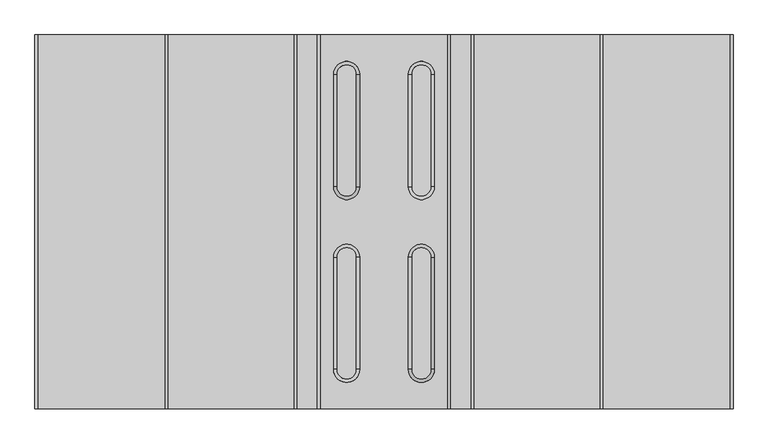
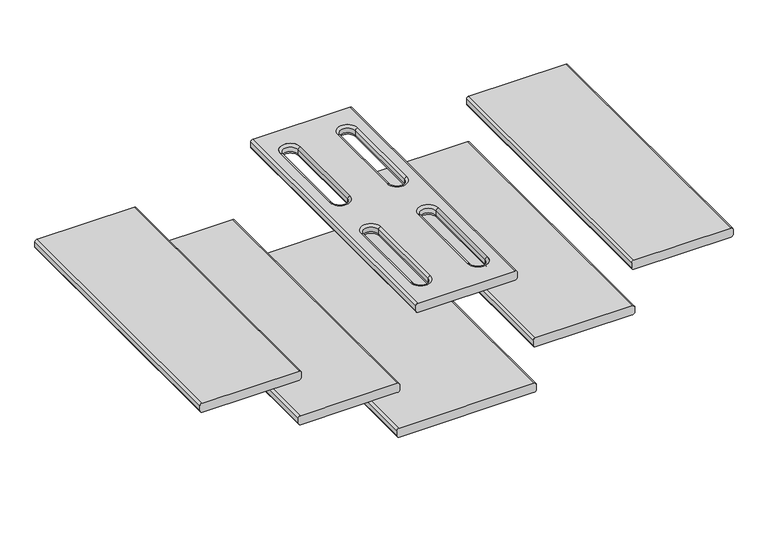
"""IFC4 building model written with IfcOpenShell, lengths in millimetres: furniture geometry, SSL-Childcraft_Outdoor-Rocking_Boat : 2163503."""

from ifc_helpers import new_model, si_unit, point, frame, origin, place, context, project, spatial, polyline, circle_curve, ellipse_curve, trimmed, source, transform, mapped, element, save
from ifc_brep_helpers import plane_surface, cylinder_surface, revolved_surface, advanced_brep


def furniture_abc39f0b(model_context):
    return source(origin(), model_context, "Body", "AdvancedBrep", [
        advanced_brep(
        [(42.06875, -225.425, 274.6375), (72.23125, -225.425, 274.6375), (76.99375, -225.425, 269.875), (37.30625, -225.425, 269.875), (42.06875, -225.425, 284.1625), (72.23125, -225.425, 284.1625), (37.30625, -225.425, 288.925), (76.99375, -225.425, 288.925), (37.30625, -53.975, 269.875), (42.06875, -53.975, 274.6375), (42.06875, -53.975, 284.1625), (37.30625, -53.975, 288.925), (76.99375, -53.975, 269.875), (72.23125, -53.975, 274.6375), (72.23125, -53.975, 284.1625), (76.99375, -53.975, 288.925), (-96.8375, 285.75, 288.925), (-96.8375, -285.75, 288.925), (96.8375, -285.75, 288.925), (96.8375, 285.75, 288.925), (37.30625, 225.425, 288.925), (76.99375, 225.425, 288.925), (76.99375, 53.975, 288.925), (37.30625, 53.975, 288.925), (-37.30625, -225.425, 288.925), (-76.99375, -225.425, 288.925), (-76.99375, -53.975, 288.925), (-37.30625, -53.975, 288.925), (-76.99375, 225.425, 288.925), (-37.30625, 225.425, 288.925), (-37.30625, 53.975, 288.925), (-76.99375, 53.975, 288.925), (96.8375, 285.75, 269.875), (96.8375, -285.75, 269.875), (-96.8375, -285.75, 269.875), (-96.8375, 285.75, 269.875), (76.99375, 225.425, 269.875), (37.30625, 225.425, 269.875), (37.30625, 53.975, 269.875), (76.99375, 53.975, 269.875), (-76.99375, -225.425, 269.875), (-37.30625, -225.425, 269.875), (-37.30625, -53.975, 269.875), (-76.99375, -53.975, 269.875), (-37.30625, 225.425, 269.875), (-76.99375, 225.425, 269.875), (-76.99375, 53.975, 269.875), (-37.30625, 53.975, 269.875), (72.23125, 225.425, 274.6375), (42.06875, 225.425, 274.6375), (72.23125, 225.425, 284.1625), (42.06875, 225.425, 284.1625), (42.06875, 53.975, 274.6375), (42.06875, 53.975, 284.1625), (72.23125, 53.975, 274.6375), (72.23125, 53.975, 284.1625), (-101.6, -285.75, 284.1625), (-101.6, -285.75, 274.6375), (101.6, -285.75, 274.6375), (101.6, -285.75, 284.1625), (-101.6, 285.75, 274.6375), (-101.6, 285.75, 284.1625), (101.6, 285.75, 284.1625), (101.6, 285.75, 274.6375), (-72.23125, -225.425, 274.6375), (-42.06875, -225.425, 274.6375), (-72.23125, -225.425, 284.1625), (-42.06875, -225.425, 284.1625), (-42.06875, -53.975, 274.6375), (-42.06875, -53.975, 284.1625), (-72.23125, -53.975, 274.6375), (-72.23125, -53.975, 284.1625), (-42.06875, 225.425, 274.6375), (-72.23125, 225.425, 274.6375), (-42.06875, 225.425, 284.1625), (-72.23125, 225.425, 284.1625), (-42.06875, 53.975, 274.6375), (-42.06875, 53.975, 284.1625), (-72.23125, 53.975, 274.6375), (-72.23125, 53.975, 284.1625)],
        [
            (0, 1, circle_curve(frame((57.15, -225.425, 274.6375), z_axis=(0.0, 0.0, 1.0), x_axis=(1.0, 0.0, 0.0)), 15.08125)),
            (1, 2, circle_curve(frame((76.99375, -225.425, 274.6375), z_axis=(0.0, -1.0, 0.0), x_axis=(1.0, 0.0, 0.0)), 4.7625)),
            (2, 3, circle_curve(frame((57.15, -225.425, 269.875), z_axis=(0.0, 0.0, -1.0), x_axis=(1.0, 0.0, 0.0)), 19.84375)),
            (3, 0, circle_curve(frame((37.30625, -225.425, 274.6375), z_axis=(0.0, -1.0, 0.0), x_axis=(-1.0, 0.0, 0.0)), 4.7625)),
            (0, 4),
            (4, 5, circle_curve(frame((57.15, -225.425, 284.1625), z_axis=(0.0, 0.0, 1.0), x_axis=(1.0, 0.0, 0.0)), 15.08125)),
            (5, 1),
            (4, 6, circle_curve(frame((37.30625, -225.425, 284.1625), z_axis=(0.0, -1.0, 0.0), x_axis=(-1.0, 0.0, 0.0)), 4.7625)),
            (6, 7, circle_curve(frame((57.15, -225.425, 288.925), z_axis=(0.0, 0.0, 1.0), x_axis=(1.0, 0.0, 0.0)), 19.84375)),
            (7, 5, circle_curve(frame((76.99375, -225.425, 284.1625), z_axis=(0.0, -1.0, 0.0), x_axis=(1.0, 0.0, 0.0)), 4.7625)),
            (3, 8),
            (8, 9, circle_curve(frame((37.30625, -53.975, 274.6375), z_axis=(0.0, -1.0, 0.0), x_axis=(-1.0, 0.0, 0.0)), 4.7625)),
            (9, 0),
            (9, 10),
            (10, 4),
            (10, 11, circle_curve(frame((37.30625, -53.975, 284.1625), z_axis=(0.0, -1.0, 0.0), x_axis=(-1.0, 0.0, 0.0)), 4.7625)),
            (11, 6),
            (8, 12, circle_curve(frame((57.15, -53.975, 269.875), z_axis=(0.0, 0.0, -1.0), x_axis=(-1.0, 0.0, 0.0)), 19.84375)),
            (12, 13, circle_curve(frame((76.99375, -53.975, 274.6375), z_axis=(0.0, 1.0, 0.0), x_axis=(1.0, 0.0, 0.0)), 4.7625)),
            (13, 9, circle_curve(frame((57.15, -53.975, 274.6375), z_axis=(0.0, 0.0, 1.0), x_axis=(-1.0, 0.0, 0.0)), 15.08125)),
            (13, 14),
            (14, 10, circle_curve(frame((57.15, -53.975, 284.1625), z_axis=(0.0, 0.0, 1.0), x_axis=(-1.0, 0.0, 0.0)), 15.08125)),
            (14, 15, circle_curve(frame((76.99375, -53.975, 284.1625), z_axis=(0.0, 1.0, 0.0), x_axis=(1.0, 0.0, 0.0)), 4.7625)),
            (15, 11, circle_curve(frame((57.15, -53.975, 288.925), z_axis=(0.0, 0.0, 1.0), x_axis=(-1.0, 0.0, 0.0)), 19.84375)),
            (16, 17),
            (17, 18),
            (18, 19),
            (19, 16),
            (15, 7),
            (20, 21, circle_curve(frame((57.15, 225.425, 288.925), z_axis=(0.0, 0.0, -1.0), x_axis=(1.0, 0.0, 0.0)), 19.84375)),
            (21, 22),
            (22, 23, circle_curve(frame((57.15, 53.975, 288.925), z_axis=(0.0, 0.0, -1.0), x_axis=(-1.0, 0.0, 0.0)), 19.84375)),
            (23, 20),
            (24, 25, circle_curve(frame((-57.15, -225.425, 288.925), z_axis=(0.0, 0.0, -1.0), x_axis=(-1.0, 0.0, 0.0)), 19.84375)),
            (25, 26),
            (26, 27, circle_curve(frame((-57.15, -53.975, 288.925), z_axis=(0.0, 0.0, -1.0), x_axis=(1.0, 0.0, 0.0)), 19.84375)),
            (27, 24),
            (28, 29, circle_curve(frame((-57.15, 225.425, 288.925), z_axis=(0.0, 0.0, -1.0), x_axis=(-1.0, 0.0, 0.0)), 19.84375)),
            (29, 30),
            (30, 31, circle_curve(frame((-57.15, 53.975, 288.925), z_axis=(0.0, 0.0, -1.0), x_axis=(1.0, 0.0, 0.0)), 19.84375)),
            (31, 28),
            (32, 33),
            (33, 34),
            (34, 35),
            (35, 32),
            (2, 12),
            (36, 37, circle_curve(frame((57.15, 225.425, 269.875), z_axis=(0.0, 0.0, 1.0), x_axis=(1.0, 0.0, 0.0)), 19.84375)),
            (37, 38),
            (38, 39, circle_curve(frame((57.15, 53.975, 269.875), z_axis=(0.0, 0.0, 1.0), x_axis=(-1.0, 0.0, 0.0)), 19.84375)),
            (39, 36),
            (40, 41, circle_curve(frame((-57.15, -225.425, 269.875), z_axis=(0.0, 0.0, 1.0), x_axis=(-1.0, 0.0, 0.0)), 19.84375)),
            (41, 42),
            (42, 43, circle_curve(frame((-57.15, -53.975, 269.875), z_axis=(0.0, 0.0, 1.0), x_axis=(1.0, 0.0, 0.0)), 19.84375)),
            (43, 40),
            (44, 45, circle_curve(frame((-57.15, 225.425, 269.875), z_axis=(0.0, 0.0, 1.0), x_axis=(-1.0, 0.0, 0.0)), 19.84375)),
            (45, 46),
            (46, 47, circle_curve(frame((-57.15, 53.975, 269.875), z_axis=(0.0, 0.0, 1.0), x_axis=(1.0, 0.0, 0.0)), 19.84375)),
            (47, 44),
            (1, 13),
            (5, 14),
            (36, 48, circle_curve(frame((76.99375, 225.425, 274.6375), z_axis=(0.0, 1.0, 0.0), x_axis=(-1.0, 0.0, 0.0)), 4.7625)),
            (48, 49, circle_curve(frame((57.15, 225.425, 274.6375), z_axis=(0.0, 0.0, 1.0), x_axis=(1.0, 0.0, 0.0)), 15.08125)),
            (49, 37, circle_curve(frame((37.30625, 225.425, 274.6375), z_axis=(0.0, 1.0, 0.0), x_axis=(1.0, 0.0, 0.0)), 4.7625)),
            (48, 50),
            (50, 51, circle_curve(frame((57.15, 225.425, 284.1625), z_axis=(0.0, 0.0, 1.0), x_axis=(1.0, 0.0, 0.0)), 15.08125)),
            (51, 49),
            (50, 21, circle_curve(frame((76.99375, 225.425, 284.1625), z_axis=(0.0, 1.0, 0.0), x_axis=(-1.0, 0.0, 0.0)), 4.7625)),
            (20, 51, circle_curve(frame((37.30625, 225.425, 284.1625), z_axis=(0.0, 1.0, 0.0), x_axis=(1.0, 0.0, 0.0)), 4.7625)),
            (49, 52),
            (52, 38, circle_curve(frame((37.30625, 53.975, 274.6375), z_axis=(0.0, 1.0, 0.0), x_axis=(1.0, 0.0, 0.0)), 4.7625)),
            (51, 53),
            (53, 52),
            (23, 53, circle_curve(frame((37.30625, 53.975, 284.1625), z_axis=(0.0, 1.0, 0.0), x_axis=(1.0, 0.0, 0.0)), 4.7625)),
            (52, 54, circle_curve(frame((57.15, 53.975, 274.6375), z_axis=(0.0, 0.0, 1.0), x_axis=(-1.0, 0.0, 0.0)), 15.08125)),
            (54, 39, circle_curve(frame((76.99375, 53.975, 274.6375), z_axis=(0.0, -1.0, 0.0), x_axis=(-1.0, 0.0, 0.0)), 4.7625)),
            (53, 55, circle_curve(frame((57.15, 53.975, 284.1625), z_axis=(0.0, 0.0, 1.0), x_axis=(-1.0, 0.0, 0.0)), 15.08125)),
            (55, 54),
            (22, 55, circle_curve(frame((76.99375, 53.975, 284.1625), z_axis=(0.0, -1.0, 0.0), x_axis=(-1.0, 0.0, 0.0)), 4.7625)),
            (54, 48),
            (55, 50),
            (17, 56, circle_curve(frame((-96.8375, -285.75, 284.1625), z_axis=(0.0, -1.0, 0.0), x_axis=(1.0, 0.0, 0.0)), 4.7625)),
            (56, 57),
            (57, 34, circle_curve(frame((-96.8375, -285.75, 274.6375), z_axis=(0.0, -1.0, 0.0), x_axis=(1.0, 0.0, 0.0)), 4.7625)),
            (33, 58, circle_curve(frame((96.8375, -285.75, 274.6375), z_axis=(0.0, -1.0, 0.0), x_axis=(1.0, 0.0, 0.0)), 4.7625)),
            (58, 59),
            (59, 18, circle_curve(frame((96.8375, -285.75, 284.1625), z_axis=(0.0, -1.0, 0.0), x_axis=(1.0, 0.0, 0.0)), 4.7625)),
            (35, 60, circle_curve(frame((-96.8375, 285.75, 274.6375), z_axis=(0.0, 1.0, 0.0), x_axis=(1.0, 0.0, 0.0)), 4.7625)),
            (60, 61),
            (61, 16, circle_curve(frame((-96.8375, 285.75, 284.1625), z_axis=(0.0, 1.0, 0.0), x_axis=(1.0, 0.0, 0.0)), 4.7625)),
            (19, 62, circle_curve(frame((96.8375, 285.75, 284.1625), z_axis=(0.0, 1.0, 0.0), x_axis=(1.0, 0.0, 0.0)), 4.7625)),
            (62, 63),
            (63, 32, circle_curve(frame((96.8375, 285.75, 274.6375), z_axis=(0.0, 1.0, 0.0), x_axis=(1.0, 0.0, 0.0)), 4.7625)),
            (56, 61),
            (60, 57),
            (58, 63),
            (62, 59),
            (40, 64, circle_curve(frame((-76.99375, -225.425, 274.6375), z_axis=(0.0, -1.0, 0.0), x_axis=(1.0, 0.0, 0.0)), 4.7625)),
            (64, 65, circle_curve(frame((-57.15, -225.425, 274.6375), z_axis=(0.0, 0.0, 1.0), x_axis=(-1.0, 0.0, 0.0)), 15.08125)),
            (65, 41, circle_curve(frame((-37.30625, -225.425, 274.6375), z_axis=(0.0, -1.0, 0.0), x_axis=(-1.0, 0.0, 0.0)), 4.7625)),
            (64, 66),
            (66, 67, circle_curve(frame((-57.15, -225.425, 284.1625), z_axis=(0.0, 0.0, 1.0), x_axis=(-1.0, 0.0, 0.0)), 15.08125)),
            (67, 65),
            (66, 25, circle_curve(frame((-76.99375, -225.425, 284.1625), z_axis=(0.0, -1.0, 0.0), x_axis=(1.0, 0.0, 0.0)), 4.7625)),
            (24, 67, circle_curve(frame((-37.30625, -225.425, 284.1625), z_axis=(0.0, -1.0, 0.0), x_axis=(-1.0, 0.0, 0.0)), 4.7625)),
            (65, 68),
            (68, 42, circle_curve(frame((-37.30625, -53.975, 274.6375), z_axis=(0.0, -1.0, 0.0), x_axis=(-1.0, 0.0, 0.0)), 4.7625)),
            (67, 69),
            (69, 68),
            (27, 69, circle_curve(frame((-37.30625, -53.975, 284.1625), z_axis=(0.0, -1.0, 0.0), x_axis=(-1.0, 0.0, 0.0)), 4.7625)),
            (68, 70, circle_curve(frame((-57.15, -53.975, 274.6375), z_axis=(0.0, 0.0, 1.0), x_axis=(1.0, 0.0, 0.0)), 15.08125)),
            (70, 43, circle_curve(frame((-76.99375, -53.975, 274.6375), z_axis=(0.0, 1.0, 0.0), x_axis=(1.0, 0.0, 0.0)), 4.7625)),
            (69, 71, circle_curve(frame((-57.15, -53.975, 284.1625), z_axis=(0.0, 0.0, 1.0), x_axis=(1.0, 0.0, 0.0)), 15.08125)),
            (71, 70),
            (26, 71, circle_curve(frame((-76.99375, -53.975, 284.1625), z_axis=(0.0, 1.0, 0.0), x_axis=(1.0, 0.0, 0.0)), 4.7625)),
            (70, 64),
            (71, 66),
            (72, 73, circle_curve(frame((-57.15, 225.425, 274.6375), z_axis=(0.0, 0.0, 1.0), x_axis=(-1.0, 0.0, 0.0)), 15.08125)),
            (73, 45, circle_curve(frame((-76.99375, 225.425, 274.6375), z_axis=(0.0, 1.0, 0.0), x_axis=(-1.0, 0.0, 0.0)), 4.7625)),
            (44, 72, circle_curve(frame((-37.30625, 225.425, 274.6375), z_axis=(0.0, 1.0, 0.0), x_axis=(1.0, 0.0, 0.0)), 4.7625)),
            (72, 74),
            (74, 75, circle_curve(frame((-57.15, 225.425, 284.1625), z_axis=(0.0, 0.0, 1.0), x_axis=(-1.0, 0.0, 0.0)), 15.08125)),
            (75, 73),
            (74, 29, circle_curve(frame((-37.30625, 225.425, 284.1625), z_axis=(0.0, 1.0, 0.0), x_axis=(1.0, 0.0, 0.0)), 4.7625)),
            (28, 75, circle_curve(frame((-76.99375, 225.425, 284.1625), z_axis=(0.0, 1.0, 0.0), x_axis=(-1.0, 0.0, 0.0)), 4.7625)),
            (47, 76, circle_curve(frame((-37.30625, 53.975, 274.6375), z_axis=(0.0, 1.0, 0.0), x_axis=(1.0, 0.0, 0.0)), 4.7625)),
            (76, 72),
            (76, 77),
            (77, 74),
            (77, 30, circle_curve(frame((-37.30625, 53.975, 284.1625), z_axis=(0.0, 1.0, 0.0), x_axis=(1.0, 0.0, 0.0)), 4.7625)),
            (46, 78, circle_curve(frame((-76.99375, 53.975, 274.6375), z_axis=(0.0, -1.0, 0.0), x_axis=(-1.0, 0.0, 0.0)), 4.7625)),
            (78, 76, circle_curve(frame((-57.15, 53.975, 274.6375), z_axis=(0.0, 0.0, 1.0), x_axis=(1.0, 0.0, 0.0)), 15.08125)),
            (78, 79),
            (79, 77, circle_curve(frame((-57.15, 53.975, 284.1625), z_axis=(0.0, 0.0, 1.0), x_axis=(1.0, 0.0, 0.0)), 15.08125)),
            (79, 31, circle_curve(frame((-76.99375, 53.975, 284.1625), z_axis=(0.0, -1.0, 0.0), x_axis=(-1.0, 0.0, 0.0)), 4.7625)),
            (73, 78),
            (75, 79),
        ],
        [
            revolved_surface(trimmed(ellipse_curve(frame((76.99375, -225.425, 274.6375), z_axis=(0.0, 1.0, 0.0), x_axis=(1.0, 0.0, 0.0)), 4.7625, 4.7625), [point((76.99375, -225.425, 269.875))], [point((72.23125, -225.425, 274.6375))], True, "CARTESIAN"), (57.15, -225.425, 0.0), (0.0, 0.0, -1.0)),
            revolved_surface(polyline([(72.23125, -225.425, 274.6375), (72.23125, -225.425, 284.1625)]), (57.15, -225.425, 0.0), (0.0, 0.0, -1.0)),
            revolved_surface(trimmed(ellipse_curve(frame((76.99375, -225.425, 284.1625), z_axis=(0.0, 1.0, 0.0), x_axis=(1.0, 0.0, 0.0)), 4.7625, 4.7625), [point((72.23125, -225.425, 284.1625))], [point((76.99375, -225.425, 288.925))], True, "CARTESIAN"), (57.15, -225.425, 0.0), (0.0, 0.0, -1.0)),
            cylinder_surface(frame((37.30625, -225.425, 274.6375), z_axis=(0.0, -1.0, 0.0), x_axis=(-1.0, 0.0, 0.0)), 4.7625),
            plane_surface(frame((42.06875, -225.425, 274.6375), z_axis=(1.0, 0.0, 0.0), x_axis=(0.0, 1.0, 0.0))),
            cylinder_surface(frame((37.30625, -225.425, 284.1625), z_axis=(0.0, -1.0, 0.0), x_axis=(-1.0, 0.0, 0.0)), 4.7625),
            revolved_surface(trimmed(ellipse_curve(frame((37.30625, -53.975, 274.6375), z_axis=(0.0, -1.0, 0.0), x_axis=(-1.0, 0.0, 0.0)), 4.7625, 4.7625), [point((37.30625, -53.975, 269.875))], [point((42.06875, -53.975, 274.6375))], True, "CARTESIAN"), (57.15, -53.975, 0.0), (0.0, 0.0, -1.0)),
            revolved_surface(polyline([(42.068749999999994, -53.975, 274.6375), (42.068749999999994, -53.975, 284.1625)]), (57.15, -53.975, 0.0), (0.0, 0.0, -1.0)),
            revolved_surface(trimmed(ellipse_curve(frame((37.30625, -53.975, 284.1625), z_axis=(0.0, -1.0, 0.0), x_axis=(-1.0, 0.0, 0.0)), 4.7625, 4.7625), [point((42.06875, -53.975, 284.1625))], [point((37.30625, -53.975, 288.925))], True, "CARTESIAN"), (57.15, -53.975, 0.0), (0.0, 0.0, -1.0)),
            plane_surface(frame((76.99375, -53.975, 288.925), z_axis=(0.0, 0.0, 1.0), x_axis=(0.0, -1.0, 0.0))),
            plane_surface(frame((77.7875, -53.975, 269.875), z_axis=(0.0, 0.0, -1.0), x_axis=(0.0, -1.0, 0.0))),
            cylinder_surface(frame((76.99375, -53.975, 274.6375), z_axis=(0.0, 1.0, 0.0), x_axis=(1.0, 0.0, 0.0)), 4.7625),
            plane_surface(frame((72.23125, -53.975, 274.6375), z_axis=(-1.0, 0.0, 0.0), x_axis=(0.0, -1.0, 0.0))),
            cylinder_surface(frame((76.99375, -53.975, 284.1625), z_axis=(0.0, 1.0, 0.0), x_axis=(1.0, 0.0, 0.0)), 4.7625),
            revolved_surface(trimmed(ellipse_curve(frame((76.99375, 225.425, 274.6375), z_axis=(0.0, -1.0, 0.0), x_axis=(-1.0, 0.0, 0.0)), 4.7625, 4.7625), [point((72.23125, 225.425, 274.6375))], [point((76.99375, 225.425, 269.875))], True, "CARTESIAN"), (57.15, 225.425, 0.0), (0.0, 0.0, 1.0)),
            revolved_surface(polyline([(72.23125, 225.425, 284.1625), (72.23125, 225.425, 274.6375)]), (57.15, 225.425, 0.0), (0.0, 0.0, 1.0)),
            revolved_surface(trimmed(ellipse_curve(frame((76.99375, 225.425, 284.1625), z_axis=(0.0, -1.0, 0.0), x_axis=(-1.0, 0.0, 0.0)), 4.7625, 4.7625), [point((76.99375, 225.425, 288.925))], [point((72.23125, 225.425, 284.1625))], True, "CARTESIAN"), (57.15, 225.425, 0.0), (0.0, 0.0, 1.0)),
            cylinder_surface(frame((37.30625, 225.425, 274.6375), z_axis=(0.0, 1.0, 0.0), x_axis=(1.0, 0.0, 0.0)), 4.7625),
            plane_surface(frame((42.06875, 225.425, 284.1625), z_axis=(1.0, 0.0, 0.0), x_axis=(0.0, -1.0, 0.0))),
            cylinder_surface(frame((37.30625, 225.425, 284.1625), z_axis=(0.0, 1.0, 0.0), x_axis=(1.0, 0.0, 0.0)), 4.7625),
            revolved_surface(trimmed(ellipse_curve(frame((37.30625, 53.975, 274.6375), z_axis=(0.0, 1.0, 0.0), x_axis=(1.0, 0.0, 0.0)), 4.7625, 4.7625), [point((42.06875, 53.975, 274.6375))], [point((37.30625, 53.975, 269.875))], True, "CARTESIAN"), (57.15, 53.975, 0.0), (0.0, 0.0, 1.0)),
            revolved_surface(polyline([(42.068749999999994, 53.975, 284.1625), (42.068749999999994, 53.975, 274.6375)]), (57.15, 53.975, 0.0), (0.0, 0.0, 1.0)),
            revolved_surface(trimmed(ellipse_curve(frame((37.30625, 53.975, 284.1625), z_axis=(0.0, 1.0, 0.0), x_axis=(1.0, 0.0, 0.0)), 4.7625, 4.7625), [point((37.30625, 53.975, 288.925))], [point((42.06875, 53.975, 284.1625))], True, "CARTESIAN"), (57.15, 53.975, 0.0), (0.0, 0.0, 1.0)),
            cylinder_surface(frame((76.99375, 53.975, 274.6375), z_axis=(0.0, -1.0, 0.0), x_axis=(-1.0, 0.0, 0.0)), 4.7625),
            plane_surface(frame((72.23125, 53.975, 284.1625), z_axis=(-1.0, 0.0, 0.0), x_axis=(0.0, 1.0, 0.0))),
            cylinder_surface(frame((76.99375, 53.975, 284.1625), z_axis=(0.0, -1.0, 0.0), x_axis=(-1.0, 0.0, 0.0)), 4.7625),
            plane_surface(frame((-533.3391608, -285.75, 228.6), z_axis=(0.0, -1.0, 0.0), x_axis=(-1.0, 0.0, 0.0))),
            plane_surface(frame((-533.3391608, 285.75, 228.6), z_axis=(0.0, 1.0, 0.0), x_axis=(1.0, 0.0, 0.0))),
            plane_surface(frame((-101.6, -285.75, 284.1625), z_axis=(-1.0, 0.0, 0.0), x_axis=(0.0, 1.0, 0.0))),
            plane_surface(frame((101.6, -285.75, 274.6375), z_axis=(1.0, 0.0, 0.0), x_axis=(0.0, 1.0, 0.0))),
            cylinder_surface(frame((-96.8375, 0.0, 284.1625), z_axis=(0.0, -1.0, 0.0), x_axis=(1.0, 0.0, 0.0)), 4.7625),
            cylinder_surface(frame((-96.8375, 0.0, 274.6375), z_axis=(0.0, -1.0, 0.0), x_axis=(1.0, 0.0, 0.0)), 4.7625),
            cylinder_surface(frame((96.8375, 0.0, 274.6375), z_axis=(0.0, -1.0, 0.0), x_axis=(1.0, 0.0, 0.0)), 4.7625),
            cylinder_surface(frame((96.8375, 0.0, 284.1625), z_axis=(0.0, -1.0, 0.0), x_axis=(1.0, 0.0, 0.0)), 4.7625),
            revolved_surface(trimmed(ellipse_curve(frame((-76.99375, -225.425, 274.6375), z_axis=(0.0, 1.0, 0.0), x_axis=(1.0, 0.0, 0.0)), 4.7625, 4.7625), [point((-72.23125, -225.425, 274.6375))], [point((-76.99375, -225.425, 269.875))], True, "CARTESIAN"), (-57.15, -225.425, 0.0), (0.0, 0.0, 1.0)),
            revolved_surface(polyline([(-72.23125, -225.425, 284.1625), (-72.23125, -225.425, 274.6375)]), (-57.15, -225.425, 0.0), (0.0, 0.0, 1.0)),
            revolved_surface(trimmed(ellipse_curve(frame((-76.99375, -225.425, 284.1625), z_axis=(0.0, 1.0, 0.0), x_axis=(1.0, 0.0, 0.0)), 4.7625, 4.7625), [point((-76.99375, -225.425, 288.925))], [point((-72.23125, -225.425, 284.1625))], True, "CARTESIAN"), (-57.15, -225.425, 0.0), (0.0, 0.0, 1.0)),
            cylinder_surface(frame((-37.30625, -225.425, 274.6375), z_axis=(0.0, -1.0, 0.0), x_axis=(-1.0, 0.0, 0.0)), 4.7625),
            plane_surface(frame((-42.06875, -225.425, 284.1625), z_axis=(-1.0, 0.0, 0.0), x_axis=(0.0, 1.0, 0.0))),
            cylinder_surface(frame((-37.30625, -225.425, 284.1625), z_axis=(0.0, -1.0, 0.0), x_axis=(-1.0, 0.0, 0.0)), 4.7625),
            revolved_surface(trimmed(ellipse_curve(frame((-37.30625, -53.975, 274.6375), z_axis=(0.0, -1.0, 0.0), x_axis=(-1.0, 0.0, 0.0)), 4.7625, 4.7625), [point((-42.06875, -53.975, 274.6375))], [point((-37.30625, -53.975, 269.875))], True, "CARTESIAN"), (-57.15, -53.975, 0.0), (0.0, 0.0, 1.0)),
            revolved_surface(polyline([(-42.068749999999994, -53.975, 284.1625), (-42.068749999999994, -53.975, 274.6375)]), (-57.15, -53.975, 0.0), (0.0, 0.0, 1.0)),
            revolved_surface(trimmed(ellipse_curve(frame((-37.30625, -53.975, 284.1625), z_axis=(0.0, -1.0, 0.0), x_axis=(-1.0, 0.0, 0.0)), 4.7625, 4.7625), [point((-37.30625, -53.975, 288.925))], [point((-42.06875, -53.975, 284.1625))], True, "CARTESIAN"), (-57.15, -53.975, 0.0), (0.0, 0.0, 1.0)),
            cylinder_surface(frame((-76.99375, -53.975, 274.6375), z_axis=(0.0, 1.0, 0.0), x_axis=(1.0, 0.0, 0.0)), 4.7625),
            plane_surface(frame((-72.23125, -53.975, 284.1625), z_axis=(1.0, 0.0, 0.0), x_axis=(0.0, -1.0, 0.0))),
            cylinder_surface(frame((-76.99375, -53.975, 284.1625), z_axis=(0.0, 1.0, 0.0), x_axis=(1.0, 0.0, 0.0)), 4.7625),
            revolved_surface(trimmed(ellipse_curve(frame((-76.99375, 225.425, 274.6375), z_axis=(0.0, -1.0, 0.0), x_axis=(-1.0, 0.0, 0.0)), 4.7625, 4.7625), [point((-76.99375, 225.425, 269.875))], [point((-72.23125, 225.425, 274.6375))], True, "CARTESIAN"), (-57.15, 225.425, 0.0), (0.0, 0.0, -1.0)),
            revolved_surface(polyline([(-72.23125, 225.425, 274.6375), (-72.23125, 225.425, 284.1625)]), (-57.15, 225.425, 0.0), (0.0, 0.0, -1.0)),
            revolved_surface(trimmed(ellipse_curve(frame((-76.99375, 225.425, 284.1625), z_axis=(0.0, -1.0, 0.0), x_axis=(-1.0, 0.0, 0.0)), 4.7625, 4.7625), [point((-72.23125, 225.425, 284.1625))], [point((-76.99375, 225.425, 288.925))], True, "CARTESIAN"), (-57.15, 225.425, 0.0), (0.0, 0.0, -1.0)),
            cylinder_surface(frame((-37.30625, 225.425, 274.6375), z_axis=(0.0, 1.0, 0.0), x_axis=(1.0, 0.0, 0.0)), 4.7625),
            plane_surface(frame((-42.06875, 225.425, 274.6375), z_axis=(-1.0, 0.0, 0.0), x_axis=(0.0, -1.0, 0.0))),
            cylinder_surface(frame((-37.30625, 225.425, 284.1625), z_axis=(0.0, 1.0, 0.0), x_axis=(1.0, 0.0, 0.0)), 4.7625),
            revolved_surface(trimmed(ellipse_curve(frame((-37.30625, 53.975, 274.6375), z_axis=(0.0, 1.0, 0.0), x_axis=(1.0, 0.0, 0.0)), 4.7625, 4.7625), [point((-37.30625, 53.975, 269.875))], [point((-42.06875, 53.975, 274.6375))], True, "CARTESIAN"), (-57.15, 53.975, 0.0), (0.0, 0.0, -1.0)),
            revolved_surface(polyline([(-42.068749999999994, 53.975, 274.6375), (-42.068749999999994, 53.975, 284.1625)]), (-57.15, 53.975, 0.0), (0.0, 0.0, -1.0)),
            revolved_surface(trimmed(ellipse_curve(frame((-37.30625, 53.975, 284.1625), z_axis=(0.0, 1.0, 0.0), x_axis=(1.0, 0.0, 0.0)), 4.7625, 4.7625), [point((-42.06875, 53.975, 284.1625))], [point((-37.30625, 53.975, 288.925))], True, "CARTESIAN"), (-57.15, 53.975, 0.0), (0.0, 0.0, -1.0)),
            cylinder_surface(frame((-76.99375, 53.975, 274.6375), z_axis=(0.0, -1.0, 0.0), x_axis=(-1.0, 0.0, 0.0)), 4.7625),
            plane_surface(frame((-72.23125, 53.975, 274.6375), z_axis=(1.0, 0.0, 0.0), x_axis=(0.0, 1.0, 0.0))),
            cylinder_surface(frame((-76.99375, 53.975, 284.1625), z_axis=(0.0, -1.0, 0.0), x_axis=(-1.0, 0.0, 0.0)), 4.7625),
        ],
        [
            (0, [[1, 2, 3, 4]]),
            (1, [[-1, 5, 6, 7]]),
            (2, [[-6, 8, 9, 10]]),
            (3, [[-4, 11, 12, 13]]),
            (4, [[-5, -13, 14, 15]]),
            (5, [[-8, -15, 16, 17]]),
            (6, [[-12, 18, 19, 20]]),
            (7, [[-14, -20, 21, 22]]),
            (8, [[-16, -22, 23, 24]]),
            (9, [[25, 26, 27, 28], [-9, -17, -24, 29], [30, 31, 32, 33], [34, 35, 36, 37], [38, 39, 40, 41]]),
            (10, [[42, 43, 44, 45], [-3, 46, -18, -11], [47, 48, 49, 50], [51, 52, 53, 54], [55, 56, 57, 58]]),
            (11, [[-2, 59, -19, -46]]),
            (12, [[-7, 60, -21, -59]]),
            (13, [[-10, -29, -23, -60]]),
            (14, [[-47, 61, 62, 63]]),
            (15, [[-62, 64, 65, 66]]),
            (16, [[-65, 67, -30, 68]]),
            (17, [[-63, 69, 70, -48]]),
            (18, [[-66, 71, 72, -69]]),
            (19, [[-68, -33, 73, -71]]),
            (20, [[-70, 74, 75, -49]]),
            (21, [[-72, 76, 77, -74]]),
            (22, [[-73, -32, 78, -76]]),
            (23, [[-61, -50, -75, 79]]),
            (24, [[-64, -79, -77, 80]]),
            (25, [[-67, -80, -78, -31]]),
            (26, [[81, 82, 83, -43, 84, 85, 86, -26]]),
            (27, [[87, 88, 89, -28, 90, 91, 92, -45]]),
            (28, [[-82, 93, -88, 94]]),
            (29, [[-85, 95, -91, 96]]),
            (30, [[-81, -25, -89, -93]]),
            (31, [[-83, -94, -87, -44]]),
            (32, [[-84, -42, -92, -95]]),
            (33, [[-86, -96, -90, -27]]),
            (34, [[-51, 97, 98, 99]]),
            (35, [[-98, 100, 101, 102]]),
            (36, [[-101, 103, -34, 104]]),
            (37, [[-99, 105, 106, -52]]),
            (38, [[-102, 107, 108, -105]]),
            (39, [[-104, -37, 109, -107]]),
            (40, [[-106, 110, 111, -53]]),
            (41, [[-108, 112, 113, -110]]),
            (42, [[-109, -36, 114, -112]]),
            (43, [[-97, -54, -111, 115]]),
            (44, [[-100, -115, -113, 116]]),
            (45, [[-103, -116, -114, -35]]),
            (46, [[117, 118, -55, 119]]),
            (47, [[-117, 120, 121, 122]]),
            (48, [[-121, 123, -38, 124]]),
            (49, [[-119, -58, 125, 126]]),
            (50, [[-120, -126, 127, 128]]),
            (51, [[-123, -128, 129, -39]]),
            (52, [[-125, -57, 130, 131]]),
            (53, [[-127, -131, 132, 133]]),
            (54, [[-129, -133, 134, -40]]),
            (55, [[-118, 135, -130, -56]]),
            (56, [[-122, 136, -132, -135]]),
            (57, [[-124, -41, -134, -136]]),
        ],
    ),
        advanced_brep(
        [(-334.9625, -285.75, 228.6), (-528.5766608, -285.75, 228.6), (-533.3391608, -285.75, 223.8375), (-533.3391608, -285.75, 214.3125), (-528.5766608, -285.75, 209.55), (-334.9625, -285.75, 209.55), (-330.2, -285.75, 214.3125), (-330.2, -285.75, 223.8375), (-334.9625, 285.75, 228.6), (-330.2, 285.75, 223.8375), (-330.2, 285.75, 214.3125), (-334.9625, 285.75, 209.55), (-528.5766608, 285.75, 209.55), (-533.3391608, 285.75, 214.3125), (-533.3391608, 285.75, 223.8375), (-528.5766608, 285.75, 228.6)],
        [
            (0, 1),
            (1, 2, circle_curve(frame((-528.5766608, -285.75, 223.8375), z_axis=(0.0, -1.0, 0.0), x_axis=(1.0, 0.0, 0.0)), 4.7625)),
            (2, 3),
            (3, 4, circle_curve(frame((-528.5766608, -285.75, 214.3125), z_axis=(0.0, -1.0, 0.0), x_axis=(1.0, 0.0, 0.0)), 4.7625)),
            (4, 5),
            (5, 6, circle_curve(frame((-334.9625, -285.75, 214.3125), z_axis=(0.0, -1.0, 0.0), x_axis=(1.0, 0.0, 0.0)), 4.7625)),
            (6, 7),
            (7, 0, circle_curve(frame((-334.9625, -285.75, 223.8375), z_axis=(0.0, -1.0, 0.0), x_axis=(1.0, 0.0, 0.0)), 4.7625)),
            (8, 9, circle_curve(frame((-334.9625, 285.75, 223.8375), z_axis=(0.0, 1.0, 0.0), x_axis=(1.0, 0.0, 0.0)), 4.7625)),
            (9, 10),
            (10, 11, circle_curve(frame((-334.9625, 285.75, 214.3125), z_axis=(0.0, 1.0, 0.0), x_axis=(1.0, 0.0, 0.0)), 4.7625)),
            (11, 12),
            (12, 13, circle_curve(frame((-528.5766608, 285.75, 214.3125), z_axis=(0.0, 1.0, 0.0), x_axis=(1.0, 0.0, 0.0)), 4.7625)),
            (13, 14),
            (14, 15, circle_curve(frame((-528.5766608, 285.75, 223.8375), z_axis=(0.0, 1.0, 0.0), x_axis=(1.0, 0.0, 0.0)), 4.7625)),
            (15, 8),
            (0, 8),
            (15, 1),
            (2, 14),
            (13, 3),
            (4, 12),
            (11, 5),
            (6, 10),
            (9, 7),
        ],
        [
            plane_surface(frame((-533.3391608, -285.75, 228.6), z_axis=(0.0, -1.0, 0.0), x_axis=(-1.0, 0.0, 0.0))),
            plane_surface(frame((-533.3391608, 285.75, 228.6), z_axis=(0.0, 1.0, 0.0), x_axis=(1.0, 0.0, 0.0))),
            plane_surface(frame((-334.9625, -285.75, 228.6), z_axis=(0.0, 0.0, 1.0), x_axis=(0.0, 1.0, 0.0))),
            plane_surface(frame((-533.3391608, -285.75, 223.8375), z_axis=(-1.0, 0.0, 0.0), x_axis=(0.0, 1.0, 0.0))),
            plane_surface(frame((-528.5766608, -285.75, 209.55), z_axis=(0.0, 0.0, -1.0), x_axis=(0.0, 1.0, 0.0))),
            plane_surface(frame((-330.2, -285.75, 214.3125), z_axis=(1.0, 0.0, 0.0), x_axis=(0.0, 1.0, 0.0))),
            cylinder_surface(frame((-528.5766608, 285.75, 223.8375), z_axis=(0.0, -1.0, 0.0), x_axis=(1.0, 0.0, 0.0)), 4.7625),
            cylinder_surface(frame((-528.5766608, 285.75, 214.3125), z_axis=(0.0, -1.0, 0.0), x_axis=(1.0, 0.0, 0.0)), 4.7625),
            cylinder_surface(frame((-334.9625, 285.75, 214.3125), z_axis=(0.0, -1.0, 0.0), x_axis=(1.0, 0.0, 0.0)), 4.7625),
            cylinder_surface(frame((-334.9625, 285.75, 223.8375), z_axis=(0.0, -1.0, 0.0), x_axis=(1.0, 0.0, 0.0)), 4.7625),
        ],
        [
            (0, [[1, 2, 3, 4, 5, 6, 7, 8]]),
            (1, [[9, 10, 11, 12, 13, 14, 15, 16]]),
            (2, [[-1, 17, -16, 18]]),
            (3, [[-3, 19, -14, 20]]),
            (4, [[-5, 21, -12, 22]]),
            (5, [[-7, 23, -10, 24]]),
            (6, [[-2, -18, -15, -19]]),
            (7, [[-4, -20, -13, -21]]),
            (8, [[-6, -22, -11, -23]]),
            (9, [[-8, -24, -9, -17]]),
        ],
    ),
        advanced_brep(
        [(528.6375, -285.75, 228.6), (334.9625, -285.75, 228.6), (330.2, -285.75, 223.8375), (330.2, -285.75, 214.3125), (334.9625, -285.75, 209.55), (528.6375, -285.75, 209.55), (533.4, -285.75, 214.3125), (533.4, -285.75, 223.8375), (528.6375, 285.75, 228.6), (533.4, 285.75, 223.8375), (533.4, 285.75, 214.3125), (528.6375, 285.75, 209.55), (334.9625, 285.75, 209.55), (330.2, 285.75, 214.3125), (330.2, 285.75, 223.8375), (334.9625, 285.75, 228.6)],
        [
            (0, 1),
            (1, 2, circle_curve(frame((334.9625, -285.75, 223.8375), z_axis=(0.0, -1.0, 0.0), x_axis=(1.0, 0.0, 0.0)), 4.7625)),
            (2, 3),
            (3, 4, circle_curve(frame((334.9625, -285.75, 214.3125), z_axis=(0.0, -1.0, 0.0), x_axis=(1.0, 0.0, 0.0)), 4.7625)),
            (4, 5),
            (5, 6, circle_curve(frame((528.6375, -285.75, 214.3125), z_axis=(0.0, -1.0, 0.0), x_axis=(1.0, 0.0, 0.0)), 4.7625)),
            (6, 7),
            (7, 0, circle_curve(frame((528.6375, -285.75, 223.8375), z_axis=(0.0, -1.0, 0.0), x_axis=(1.0, 0.0, 0.0)), 4.7625)),
            (8, 9, circle_curve(frame((528.6375, 285.75, 223.8375), z_axis=(0.0, 1.0, 0.0), x_axis=(1.0, 0.0, 0.0)), 4.7625)),
            (9, 10),
            (10, 11, circle_curve(frame((528.6375, 285.75, 214.3125), z_axis=(0.0, 1.0, 0.0), x_axis=(1.0, 0.0, 0.0)), 4.7625)),
            (11, 12),
            (12, 13, circle_curve(frame((334.9625, 285.75, 214.3125), z_axis=(0.0, 1.0, 0.0), x_axis=(1.0, 0.0, 0.0)), 4.7625)),
            (13, 14),
            (14, 15, circle_curve(frame((334.9625, 285.75, 223.8375), z_axis=(0.0, 1.0, 0.0), x_axis=(1.0, 0.0, 0.0)), 4.7625)),
            (15, 8),
            (0, 8),
            (15, 1),
            (2, 14),
            (13, 3),
            (4, 12),
            (11, 5),
            (6, 10),
            (9, 7),
        ],
        [
            plane_surface(frame((-533.3391608, -285.75, 228.6), z_axis=(0.0, -1.0, 0.0), x_axis=(-1.0, 0.0, 0.0))),
            plane_surface(frame((-533.3391608, 285.75, 228.6), z_axis=(0.0, 1.0, 0.0), x_axis=(1.0, 0.0, 0.0))),
            plane_surface(frame((528.6375, -285.75, 228.6), z_axis=(0.0, 0.0, 1.0), x_axis=(0.0, 1.0, 0.0))),
            plane_surface(frame((330.2, -285.75, 223.8375), z_axis=(-1.0, 0.0, 0.0), x_axis=(0.0, 1.0, 0.0))),
            plane_surface(frame((334.9625, -285.75, 209.55), z_axis=(0.0, 0.0, -1.0), x_axis=(0.0, 1.0, 0.0))),
            plane_surface(frame((533.4, -285.75, 214.3125), z_axis=(1.0, 0.0, 0.0), x_axis=(0.0, 1.0, 0.0))),
            cylinder_surface(frame((334.9625, 0.0, 223.8375), z_axis=(0.0, -1.0, 0.0), x_axis=(1.0, 0.0, 0.0)), 4.7625),
            cylinder_surface(frame((334.9625, 0.0, 214.3125), z_axis=(0.0, -1.0, 0.0), x_axis=(1.0, 0.0, 0.0)), 4.7625),
            cylinder_surface(frame((528.6375, 0.0, 214.3125), z_axis=(0.0, -1.0, 0.0), x_axis=(1.0, 0.0, 0.0)), 4.7625),
            cylinder_surface(frame((528.6375, 0.0, 223.8375), z_axis=(0.0, -1.0, 0.0), x_axis=(1.0, 0.0, 0.0)), 4.7625),
        ],
        [
            (0, [[1, 2, 3, 4, 5, 6, 7, 8]]),
            (1, [[9, 10, 11, 12, 13, 14, 15, 16]]),
            (2, [[-1, 17, -16, 18]]),
            (3, [[-3, 19, -14, 20]]),
            (4, [[-5, 21, -12, 22]]),
            (5, [[-7, 23, -10, 24]]),
            (6, [[-2, -18, -15, -19]]),
            (7, [[-4, -20, -13, -21]]),
            (8, [[-6, -22, -11, -23]]),
            (9, [[-8, -24, -9, -17]]),
        ],
    ),
        advanced_brep(
        [(134.9375, -285.75, 38.1), (-134.9375, -285.75, 38.1), (-139.7, -285.75, 33.3375), (-139.7, -285.75, 23.8125), (-134.9375, -285.75, 19.05), (134.9375, -285.75, 19.05), (139.7, -285.75, 23.8125), (139.7, -285.75, 33.3375), (134.9375, 285.75, 38.1), (139.7, 285.75, 33.3375), (139.7, 285.75, 23.8125), (134.9375, 285.75, 19.05), (-134.9375, 285.75, 19.05), (-139.7, 285.75, 23.8125), (-139.7, 285.75, 33.3375), (-134.9375, 285.75, 38.1)],
        [
            (0, 1),
            (1, 2, circle_curve(frame((-134.9375, -285.75, 33.3375), z_axis=(0.0, -1.0, 0.0), x_axis=(1.0, 0.0, 0.0)), 4.7625)),
            (2, 3),
            (3, 4, circle_curve(frame((-134.9375, -285.75, 23.8125), z_axis=(0.0, -1.0, 0.0), x_axis=(1.0, 0.0, 0.0)), 4.7625)),
            (4, 5),
            (5, 6, circle_curve(frame((134.9375, -285.75, 23.8125), z_axis=(0.0, -1.0, 0.0), x_axis=(1.0, 0.0, 0.0)), 4.7625)),
            (6, 7),
            (7, 0, circle_curve(frame((134.9375, -285.75, 33.3375), z_axis=(0.0, -1.0, 0.0), x_axis=(1.0, 0.0, 0.0)), 4.7625)),
            (8, 9, circle_curve(frame((134.9375, 285.75, 33.3375), z_axis=(0.0, 1.0, 0.0), x_axis=(1.0, 0.0, 0.0)), 4.7625)),
            (9, 10),
            (10, 11, circle_curve(frame((134.9375, 285.75, 23.8125), z_axis=(0.0, 1.0, 0.0), x_axis=(1.0, 0.0, 0.0)), 4.7625)),
            (11, 12),
            (12, 13, circle_curve(frame((-134.9375, 285.75, 23.8125), z_axis=(0.0, 1.0, 0.0), x_axis=(1.0, 0.0, 0.0)), 4.7625)),
            (13, 14),
            (14, 15, circle_curve(frame((-134.9375, 285.75, 33.3375), z_axis=(0.0, 1.0, 0.0), x_axis=(1.0, 0.0, 0.0)), 4.7625)),
            (15, 8),
            (0, 8),
            (15, 1),
            (2, 14),
            (13, 3),
            (4, 12),
            (11, 5),
            (6, 10),
            (9, 7),
        ],
        [
            plane_surface(frame((-533.3391608, -285.75, 228.6), z_axis=(0.0, -1.0, 0.0), x_axis=(-1.0, 0.0, 0.0))),
            plane_surface(frame((-533.3391608, 285.75, 228.6), z_axis=(0.0, 1.0, 0.0), x_axis=(1.0, 0.0, 0.0))),
            plane_surface(frame((134.9375, -285.75, 38.1), z_axis=(0.0, 0.0, 1.0), x_axis=(0.0, 1.0, 0.0))),
            plane_surface(frame((-139.7, -285.75, 33.3375), z_axis=(-1.0, 0.0, 0.0), x_axis=(0.0, 1.0, 0.0))),
            plane_surface(frame((-134.9375, -285.75, 19.05), z_axis=(0.0, 0.0, -1.0), x_axis=(0.0, 1.0, 0.0))),
            plane_surface(frame((139.7, -285.75, 23.8125), z_axis=(1.0, 0.0, 0.0), x_axis=(0.0, 1.0, 0.0))),
            cylinder_surface(frame((-134.9375, 0.0, 33.3375), z_axis=(0.0, -1.0, 0.0), x_axis=(1.0, 0.0, 0.0)), 4.7625),
            cylinder_surface(frame((-134.9375, 0.0, 23.8125), z_axis=(0.0, -1.0, 0.0), x_axis=(1.0, 0.0, 0.0)), 4.7625),
            cylinder_surface(frame((134.9375, 0.0, 23.8125), z_axis=(0.0, -1.0, 0.0), x_axis=(1.0, 0.0, 0.0)), 4.7625),
            cylinder_surface(frame((134.9375, 0.0, 33.3375), z_axis=(0.0, -1.0, 0.0), x_axis=(1.0, 0.0, 0.0)), 4.7625),
        ],
        [
            (0, [[1, 2, 3, 4, 5, 6, 7, 8]]),
            (1, [[9, 10, 11, 12, 13, 14, 15, 16]]),
            (2, [[-1, 17, -16, 18]]),
            (3, [[-3, 19, -14, 20]]),
            (4, [[-5, 21, -12, 22]]),
            (5, [[-7, 23, -10, 24]]),
            (6, [[-2, -18, -15, -19]]),
            (7, [[-4, -20, -13, -21]]),
            (8, [[-6, -22, -11, -23]]),
            (9, [[-8, -24, -9, -17]]),
        ],
    ),
        advanced_brep(
        [(-138.1125, -285.75, 133.35), (-331.7875, -285.75, 133.35), (-336.55, -285.75, 128.5875), (-336.55, -285.75, 119.0625), (-331.7875, -285.75, 114.3), (-138.1125, -285.75, 114.3), (-133.35, -285.75, 119.0625), (-133.35, -285.75, 128.5875), (-138.1125, 285.75, 133.35), (-133.35, 285.75, 128.5875), (-133.35, 285.75, 119.0625), (-138.1125, 285.75, 114.3), (-331.7875, 285.75, 114.3), (-336.55, 285.75, 119.0625), (-336.55, 285.75, 128.5875), (-331.7875, 285.75, 133.35)],
        [
            (0, 1),
            (1, 2, circle_curve(frame((-331.7875, -285.75, 128.5875), z_axis=(0.0, -1.0, 0.0), x_axis=(1.0, 0.0, 0.0)), 4.7625)),
            (2, 3),
            (3, 4, circle_curve(frame((-331.7875, -285.75, 119.0625), z_axis=(0.0, -1.0, 0.0), x_axis=(1.0, 0.0, 0.0)), 4.7625)),
            (4, 5),
            (5, 6, circle_curve(frame((-138.1125, -285.75, 119.0625), z_axis=(0.0, -1.0, 0.0), x_axis=(1.0, 0.0, 0.0)), 4.7625)),
            (6, 7),
            (7, 0, circle_curve(frame((-138.1125, -285.75, 128.5875), z_axis=(0.0, -1.0, 0.0), x_axis=(1.0, 0.0, 0.0)), 4.7625)),
            (8, 9, circle_curve(frame((-138.1125, 285.75, 128.5875), z_axis=(0.0, 1.0, 0.0), x_axis=(1.0, 0.0, 0.0)), 4.7625)),
            (9, 10),
            (10, 11, circle_curve(frame((-138.1125, 285.75, 119.0625), z_axis=(0.0, 1.0, 0.0), x_axis=(1.0, 0.0, 0.0)), 4.7625)),
            (11, 12),
            (12, 13, circle_curve(frame((-331.7875, 285.75, 119.0625), z_axis=(0.0, 1.0, 0.0), x_axis=(1.0, 0.0, 0.0)), 4.7625)),
            (13, 14),
            (14, 15, circle_curve(frame((-331.7875, 285.75, 128.5875), z_axis=(0.0, 1.0, 0.0), x_axis=(1.0, 0.0, 0.0)), 4.7625)),
            (15, 8),
            (0, 8),
            (15, 1),
            (2, 14),
            (13, 3),
            (4, 12),
            (11, 5),
            (6, 10),
            (9, 7),
        ],
        [
            plane_surface(frame((-533.3391608, -285.75, 228.6), z_axis=(0.0, -1.0, 0.0), x_axis=(-1.0, 0.0, 0.0))),
            plane_surface(frame((-533.3391608, 285.75, 228.6), z_axis=(0.0, 1.0, 0.0), x_axis=(1.0, 0.0, 0.0))),
            plane_surface(frame((-138.1125, -285.75, 133.35), z_axis=(0.0, 0.0, 1.0), x_axis=(0.0, 1.0, 0.0))),
            plane_surface(frame((-336.55, -285.75, 128.5875), z_axis=(-1.0, 0.0, 0.0), x_axis=(0.0, 1.0, 0.0))),
            plane_surface(frame((-331.7875, -285.75, 114.3), z_axis=(0.0, 0.0, -1.0), x_axis=(0.0, 1.0, 0.0))),
            plane_surface(frame((-133.35, -285.75, 119.0625), z_axis=(1.0, 0.0, 0.0), x_axis=(0.0, 1.0, 0.0))),
            cylinder_surface(frame((-331.7875, 0.0, 128.5875), z_axis=(0.0, -1.0, 0.0), x_axis=(1.0, 0.0, 0.0)), 4.7625),
            cylinder_surface(frame((-331.7875, 0.0, 119.0625), z_axis=(0.0, -1.0, 0.0), x_axis=(1.0, 0.0, 0.0)), 4.7625),
            cylinder_surface(frame((-138.1125, 0.0, 119.0625), z_axis=(0.0, -1.0, 0.0), x_axis=(1.0, 0.0, 0.0)), 4.7625),
            cylinder_surface(frame((-138.1125, 0.0, 128.5875), z_axis=(0.0, -1.0, 0.0), x_axis=(1.0, 0.0, 0.0)), 4.7625),
        ],
        [
            (0, [[1, 2, 3, 4, 5, 6, 7, 8]]),
            (1, [[9, 10, 11, 12, 13, 14, 15, 16]]),
            (2, [[-1, 17, -16, 18]]),
            (3, [[-3, 19, -14, 20]]),
            (4, [[-5, 21, -12, 22]]),
            (5, [[-7, 23, -10, 24]]),
            (6, [[-2, -18, -15, -19]]),
            (7, [[-4, -20, -13, -21]]),
            (8, [[-6, -22, -11, -23]]),
            (9, [[-8, -24, -9, -17]]),
        ],
    ),
        advanced_brep(
        [(331.7875, -285.75, 133.35), (138.1125, -285.75, 133.35), (133.35, -285.75, 128.5875), (133.35, -285.75, 119.0625), (138.1125, -285.75, 114.3), (331.7875, -285.75, 114.3), (336.55, -285.75, 119.0625), (336.55, -285.75, 128.5875), (331.7875, 285.75, 133.35), (336.55, 285.75, 128.5875), (336.55, 285.75, 119.0625), (331.7875, 285.75, 114.3), (138.1125, 285.75, 114.3), (133.35, 285.75, 119.0625), (133.35, 285.75, 128.5875), (138.1125, 285.75, 133.35)],
        [
            (0, 1),
            (1, 2, circle_curve(frame((138.1125, -285.75, 128.5875), z_axis=(0.0, -1.0, 0.0), x_axis=(1.0, 0.0, 0.0)), 4.7625)),
            (2, 3),
            (3, 4, circle_curve(frame((138.1125, -285.75, 119.0625), z_axis=(0.0, -1.0, 0.0), x_axis=(1.0, 0.0, 0.0)), 4.7625)),
            (4, 5),
            (5, 6, circle_curve(frame((331.7875, -285.75, 119.0625), z_axis=(0.0, -1.0, 0.0), x_axis=(1.0, 0.0, 0.0)), 4.7625)),
            (6, 7),
            (7, 0, circle_curve(frame((331.7875, -285.75, 128.5875), z_axis=(0.0, -1.0, 0.0), x_axis=(1.0, 0.0, 0.0)), 4.7625)),
            (8, 9, circle_curve(frame((331.7875, 285.75, 128.5875), z_axis=(0.0, 1.0, 0.0), x_axis=(1.0, 0.0, 0.0)), 4.7625)),
            (9, 10),
            (10, 11, circle_curve(frame((331.7875, 285.75, 119.0625), z_axis=(0.0, 1.0, 0.0), x_axis=(1.0, 0.0, 0.0)), 4.7625)),
            (11, 12),
            (12, 13, circle_curve(frame((138.1125, 285.75, 119.0625), z_axis=(0.0, 1.0, 0.0), x_axis=(1.0, 0.0, 0.0)), 4.7625)),
            (13, 14),
            (14, 15, circle_curve(frame((138.1125, 285.75, 128.5875), z_axis=(0.0, 1.0, 0.0), x_axis=(1.0, 0.0, 0.0)), 4.7625)),
            (15, 8),
            (0, 8),
            (15, 1),
            (2, 14),
            (13, 3),
            (4, 12),
            (11, 5),
            (6, 10),
            (9, 7),
        ],
        [
            plane_surface(frame((-533.3391608, -285.75, 228.6), z_axis=(0.0, -1.0, 0.0), x_axis=(-1.0, 0.0, 0.0))),
            plane_surface(frame((-533.3391608, 285.75, 228.6), z_axis=(0.0, 1.0, 0.0), x_axis=(1.0, 0.0, 0.0))),
            plane_surface(frame((331.7875, -285.75, 133.35), z_axis=(0.0, 0.0, 1.0), x_axis=(0.0, 1.0, 0.0))),
            plane_surface(frame((133.35, -285.75, 128.5875), z_axis=(-1.0, 0.0, 0.0), x_axis=(0.0, 1.0, 0.0))),
            plane_surface(frame((138.1125, -285.75, 114.3), z_axis=(0.0, 0.0, -1.0), x_axis=(0.0, 1.0, 0.0))),
            plane_surface(frame((336.55, -285.75, 119.0625), z_axis=(1.0, 0.0, 0.0), x_axis=(0.0, 1.0, 0.0))),
            cylinder_surface(frame((138.1125, 0.0, 128.5875), z_axis=(0.0, -1.0, 0.0), x_axis=(1.0, 0.0, 0.0)), 4.7625),
            cylinder_surface(frame((138.1125, 0.0, 119.0625), z_axis=(0.0, -1.0, 0.0), x_axis=(1.0, 0.0, 0.0)), 4.7625),
            cylinder_surface(frame((331.7875, 0.0, 119.0625), z_axis=(0.0, -1.0, 0.0), x_axis=(1.0, 0.0, 0.0)), 4.7625),
            cylinder_surface(frame((331.7875, 0.0, 128.5875), z_axis=(0.0, -1.0, 0.0), x_axis=(1.0, 0.0, 0.0)), 4.7625),
        ],
        [
            (0, [[1, 2, 3, 4, 5, 6, 7, 8]]),
            (1, [[9, 10, 11, 12, 13, 14, 15, 16]]),
            (2, [[-1, 17, -16, 18]]),
            (3, [[-3, 19, -14, 20]]),
            (4, [[-5, 21, -12, 22]]),
            (5, [[-7, 23, -10, 24]]),
            (6, [[-2, -18, -15, -19]]),
            (7, [[-4, -20, -13, -21]]),
            (8, [[-6, -22, -11, -23]]),
            (9, [[-8, -24, -9, -17]]),
        ],
    ),
    ])


if __name__ == "__main__":
    model = new_model("IFC4")
    model_context = context("Model", 3, world=origin())
    ifc_project = project(units=[si_unit("LENGTHUNIT", "METRE", prefix="MILLI")], contexts=[model_context])
    site = spatial("IfcSite", under=ifc_project)
    building = spatial("IfcBuilding", under=site)
    placement = place(None, origin())
    furniture_shape = furniture_abc39f0b(model_context)
    element("IfcFurniture", 1, ObjectType="SSL-Childcraft_Outdoor-Rocking_Boat : 2163503", at=placement, inside=building, context=model_context, shape_type="MappedRepresentation", body=[
        mapped(furniture_shape, transform((0.0, 0.0, 0.0), x_axis=(1.0, 0.0, 0.0), y_axis=(0.0, 1.0, 0.0), z_axis=(0.0, 0.0, 1.0))),
    ])
    save(model, "model.ifc")
